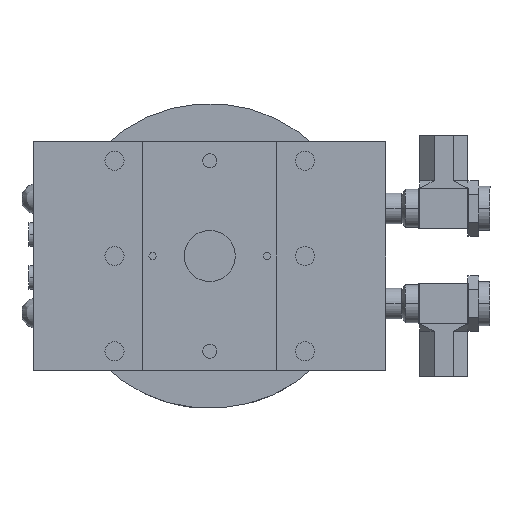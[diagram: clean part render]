
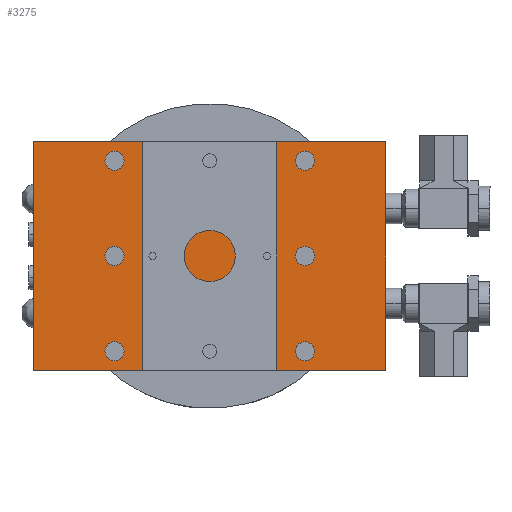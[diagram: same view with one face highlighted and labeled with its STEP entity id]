
A CAD part, front view. The second image highlights one B-rep face of the part: STEP entity #3275.
In plain terms, the highlighted planar face has unit normal (0, -1, 0) as drawn and (0, 0, -1) by its records, which use the part's own axes.
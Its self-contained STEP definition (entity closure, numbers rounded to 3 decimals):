
#121 = DIRECTION ( 'NONE',  ( 0., 0., -1. ) ) ;
#455 = DIRECTION ( 'NONE',  ( 1., 0., 0. ) ) ;
#465 = DIRECTION ( 'NONE',  ( 1., 0., 0. ) ) ;
#509 = LINE ( 'NONE', #2120, #4848 ) ;
#512 = EDGE_CURVE ( 'NONE', #8789, #6816, #3556, .T. ) ;
#568 = CARTESIAN_POINT ( 'NONE',  ( -31.75, -31.75, -16.002 ) ) ;
#657 = EDGE_CURVE ( 'NONE', #6209, #7757, #9333, .T. ) ;
#679 = DIRECTION ( 'NONE',  ( 1., 0., 0. ) ) ;
#703 = VERTEX_POINT ( 'NONE', #3825 ) ;
#765 = EDGE_CURVE ( 'NONE', #7081, #703, #1392, .T. ) ;
#803 = EDGE_CURVE ( 'NONE', #10704, #10449, #8000, .T. ) ;
#901 = ORIENTED_EDGE ( 'NONE', *, *, #1232, .F. ) ;
#1213 = CARTESIAN_POINT ( 'NONE',  ( 34.925, 31.75, -16.002 ) ) ;
#1232 = EDGE_CURVE ( 'NONE', #7757, #6209, #11074, .T. ) ;
#1366 = CARTESIAN_POINT ( 'NONE',  ( -34.925, 31.75, -16.002 ) ) ;
#1392 = CIRCLE ( 'NONE', #11182, 3.175 ) ;
#1425 = CIRCLE ( 'NONE', #3048, 3.175 ) ;
#1456 = DIRECTION ( 'NONE',  ( 1., 0., 0. ) ) ;
#1458 = CARTESIAN_POINT ( 'NONE',  ( 58.737, 0., -16.002 ) ) ;
#1498 = CARTESIAN_POINT ( 'NONE',  ( 28.562, 0., -16.002 ) ) ;
#1524 = ORIENTED_EDGE ( 'NONE', *, *, #657, .F. ) ;
#1526 = DIRECTION ( 'NONE',  ( 0., 0., -1. ) ) ;
#1552 = AXIS2_PLACEMENT_3D ( 'NONE', #10782, #5637, #465 ) ;
#1594 = EDGE_LOOP ( 'NONE', ( #901, #1524 ) ) ;
#1779 = EDGE_CURVE ( 'NONE', #5738, #9638, #2442, .T. ) ;
#1907 = CARTESIAN_POINT ( 'NONE',  ( -34.925, -31.75, -16.002 ) ) ;
#1968 = AXIS2_PLACEMENT_3D ( 'NONE', #9615, #4474, #10483 ) ;
#2120 = CARTESIAN_POINT ( 'NONE',  ( 0., 38.1, -16.002 ) ) ;
#2184 = FACE_BOUND ( 'NONE', #2218, .T. ) ;
#2218 = EDGE_LOOP ( 'NONE', ( #4776, #10630 ) ) ;
#2324 = VERTEX_POINT ( 'NONE', #3490 ) ;
#2394 = EDGE_LOOP ( 'NONE', ( #7592, #8938 ) ) ;
#2442 = CIRCLE ( 'NONE', #2609, 3.175 ) ;
#2455 = AXIS2_PLACEMENT_3D ( 'NONE', #2556, #8564, #3419 ) ;
#2556 = CARTESIAN_POINT ( 'NONE',  ( 31.75, 31.75, -16.002 ) ) ;
#2609 = AXIS2_PLACEMENT_3D ( 'NONE', #568, #6605, #1456 ) ;
#2678 = LINE ( 'NONE', #9310, #9539 ) ;
#2702 = CARTESIAN_POINT ( 'NONE',  ( -58.737, 38.1, -16.002 ) ) ;
#2747 = CARTESIAN_POINT ( 'NONE',  ( -58.737, 0., -16.002 ) ) ;
#2776 = EDGE_LOOP ( 'NONE', ( #7596, #5868 ) ) ;
#2975 = DIRECTION ( 'NONE',  ( 1., 0., 0. ) ) ;
#3048 = AXIS2_PLACEMENT_3D ( 'NONE', #5304, #121, #6166 ) ;
#3183 = DIRECTION ( 'NONE',  ( 0., 0., -1. ) ) ;
#3275 = ADVANCED_FACE ( 'NONE', ( #9043, #6764, #5027, #4488, #2184, #11068, #8769 ), #10995, .F. ) ;
#3280 = DIRECTION ( 'NONE',  ( 0., 0., 1. ) ) ;
#3406 = CARTESIAN_POINT ( 'NONE',  ( 58.737, -38.1, -16.002 ) ) ;
#3419 = DIRECTION ( 'NONE',  ( 1., 0., 0. ) ) ;
#3454 = CARTESIAN_POINT ( 'NONE',  ( -28.575, -31.75, -16.002 ) ) ;
#3473 = AXIS2_PLACEMENT_3D ( 'NONE', #10858, #5691, #679 ) ;
#3474 = AXIS2_PLACEMENT_3D ( 'NONE', #8323, #3183, #9169 ) ;
#3490 = CARTESIAN_POINT ( 'NONE',  ( -28.562, 0., -16.002 ) ) ;
#3548 = AXIS2_PLACEMENT_3D ( 'NONE', #9777, #4618, #10635 ) ;
#3556 = CIRCLE ( 'NONE', #1968, 3.175 ) ;
#3560 = ORIENTED_EDGE ( 'NONE', *, *, #803, .F. ) ;
#3629 = EDGE_CURVE ( 'NONE', #7650, #6711, #10274, .T. ) ;
#3659 = EDGE_CURVE ( 'NONE', #703, #7081, #5818, .T. ) ;
#3755 = CARTESIAN_POINT ( 'NONE',  ( 31.75, 31.75, -16.002 ) ) ;
#3777 = CARTESIAN_POINT ( 'NONE',  ( 34.938, 0., -16.002 ) ) ;
#3825 = CARTESIAN_POINT ( 'NONE',  ( -28.575, 31.75, -16.002 ) ) ;
#3861 = AXIS2_PLACEMENT_3D ( 'NONE', #6703, #3280, #9283 ) ;
#3897 = LINE ( 'NONE', #2747, #10758 ) ;
#3928 = CARTESIAN_POINT ( 'NONE',  ( -58.737, -38.1, -16.002 ) ) ;
#4060 = DIRECTION ( 'NONE',  ( 0., -1., 0. ) ) ;
#4474 = DIRECTION ( 'NONE',  ( 0., 0., -1. ) ) ;
#4488 = FACE_BOUND ( 'NONE', #1594, .T. ) ;
#4617 = DIRECTION ( 'NONE',  ( 1., 0., 0. ) ) ;
#4618 = DIRECTION ( 'NONE',  ( 0., 0., -1. ) ) ;
#4776 = ORIENTED_EDGE ( 'NONE', *, *, #7249, .F. ) ;
#4779 = ORIENTED_EDGE ( 'NONE', *, *, #8505, .T. ) ;
#4848 = VECTOR ( 'NONE', #2975, 1000. ) ;
#4854 = DIRECTION ( 'NONE',  ( 0., 0., -1. ) ) ;
#5027 = FACE_BOUND ( 'NONE', #6854, .T. ) ;
#5274 = ORIENTED_EDGE ( 'NONE', *, *, #9451, .F. ) ;
#5304 = CARTESIAN_POINT ( 'NONE',  ( -31.75, -31.75, -16.002 ) ) ;
#5414 = AXIS2_PLACEMENT_3D ( 'NONE', #3755, #9773, #4617 ) ;
#5444 = ORIENTED_EDGE ( 'NONE', *, *, #11024, .F. ) ;
#5572 = EDGE_CURVE ( 'NONE', #6116, #2324, #7375, .T. ) ;
#5610 = ORIENTED_EDGE ( 'NONE', *, *, #1779, .F. ) ;
#5628 = DIRECTION ( 'NONE',  ( 0., 0., -1. ) ) ;
#5637 = DIRECTION ( 'NONE',  ( 0., 0., -1. ) ) ;
#5691 = DIRECTION ( 'NONE',  ( 0., 0., -1. ) ) ;
#5738 = VERTEX_POINT ( 'NONE', #1907 ) ;
#5818 = CIRCLE ( 'NONE', #10557, 3.175 ) ;
#5868 = ORIENTED_EDGE ( 'NONE', *, *, #765, .F. ) ;
#5955 = CARTESIAN_POINT ( 'NONE',  ( 28.575, 31.75, -16.002 ) ) ;
#6116 = VERTEX_POINT ( 'NONE', #8442 ) ;
#6131 = EDGE_LOOP ( 'NONE', ( #8600, #4779, #7612, #9469 ) ) ;
#6166 = DIRECTION ( 'NONE',  ( 1., 0., 0. ) ) ;
#6209 = VERTEX_POINT ( 'NONE', #5955 ) ;
#6268 = CIRCLE ( 'NONE', #3548, 3.188 ) ;
#6582 = CARTESIAN_POINT ( 'NONE',  ( 28.575, -31.75, -16.002 ) ) ;
#6605 = DIRECTION ( 'NONE',  ( 0., 0., -1. ) ) ;
#6692 = CARTESIAN_POINT ( 'NONE',  ( -31.75, 31.75, -16.002 ) ) ;
#6703 = CARTESIAN_POINT ( 'NONE',  ( 0., 0., -16.002 ) ) ;
#6711 = VERTEX_POINT ( 'NONE', #3406 ) ;
#6764 = FACE_BOUND ( 'NONE', #10128, .T. ) ;
#6816 = VERTEX_POINT ( 'NONE', #10451 ) ;
#6854 = EDGE_LOOP ( 'NONE', ( #5274, #3560 ) ) ;
#6910 = EDGE_CURVE ( 'NONE', #2324, #6116, #6268, .T. ) ;
#7081 = VERTEX_POINT ( 'NONE', #1366 ) ;
#7249 = EDGE_CURVE ( 'NONE', #6816, #8789, #10699, .T. ) ;
#7375 = CIRCLE ( 'NONE', #3474, 3.188 ) ;
#7546 = DIRECTION ( 'NONE',  ( 1., 0., 0. ) ) ;
#7592 = ORIENTED_EDGE ( 'NONE', *, *, #6910, .F. ) ;
#7596 = ORIENTED_EDGE ( 'NONE', *, *, #3659, .F. ) ;
#7612 = ORIENTED_EDGE ( 'NONE', *, *, #8653, .T. ) ;
#7650 = VERTEX_POINT ( 'NONE', #10505 ) ;
#7757 = VERTEX_POINT ( 'NONE', #1213 ) ;
#7994 = VECTOR ( 'NONE', #4060, 1000. ) ;
#8000 = CIRCLE ( 'NONE', #3473, 3.188 ) ;
#8065 = CIRCLE ( 'NONE', #1552, 3.188 ) ;
#8082 = VERTEX_POINT ( 'NONE', #3928 ) ;
#8323 = CARTESIAN_POINT ( 'NONE',  ( -31.75, 0., -16.002 ) ) ;
#8442 = CARTESIAN_POINT ( 'NONE',  ( -34.938, 0., -16.002 ) ) ;
#8505 = EDGE_CURVE ( 'NONE', #8082, #11016, #3897, .T. ) ;
#8564 = DIRECTION ( 'NONE',  ( 0., 0., -1. ) ) ;
#8600 = ORIENTED_EDGE ( 'NONE', *, *, #8943, .T. ) ;
#8653 = EDGE_CURVE ( 'NONE', #11016, #7650, #509, .T. ) ;
#8753 = DIRECTION ( 'NONE',  ( 0., 1., 0. ) ) ;
#8769 = FACE_OUTER_BOUND ( 'NONE', #6131, .T. ) ;
#8789 = VERTEX_POINT ( 'NONE', #6582 ) ;
#8938 = ORIENTED_EDGE ( 'NONE', *, *, #5572, .F. ) ;
#8943 = EDGE_CURVE ( 'NONE', #6711, #8082, #2678, .T. ) ;
#9043 = FACE_BOUND ( 'NONE', #2776, .T. ) ;
#9169 = DIRECTION ( 'NONE',  ( 1., 0., 0. ) ) ;
#9240 = AXIS2_PLACEMENT_3D ( 'NONE', #9978, #4854, #10864 ) ;
#9283 = DIRECTION ( 'NONE',  ( 1., 0., 0. ) ) ;
#9310 = CARTESIAN_POINT ( 'NONE',  ( 0., -38.1, -16.002 ) ) ;
#9333 = CIRCLE ( 'NONE', #5414, 3.175 ) ;
#9451 = EDGE_CURVE ( 'NONE', #10449, #10704, #8065, .T. ) ;
#9469 = ORIENTED_EDGE ( 'NONE', *, *, #3629, .T. ) ;
#9539 = VECTOR ( 'NONE', #10196, 1000. ) ;
#9615 = CARTESIAN_POINT ( 'NONE',  ( 31.75, -31.75, -16.002 ) ) ;
#9638 = VERTEX_POINT ( 'NONE', #3454 ) ;
#9773 = DIRECTION ( 'NONE',  ( 0., 0., -1. ) ) ;
#9777 = CARTESIAN_POINT ( 'NONE',  ( -31.75, 0., -16.002 ) ) ;
#9978 = CARTESIAN_POINT ( 'NONE',  ( 31.75, -31.75, -16.002 ) ) ;
#10128 = EDGE_LOOP ( 'NONE', ( #5444, #5610 ) ) ;
#10196 = DIRECTION ( 'NONE',  ( -1., 0., 0. ) ) ;
#10274 = LINE ( 'NONE', #1458, #7994 ) ;
#10449 = VERTEX_POINT ( 'NONE', #3777 ) ;
#10451 = CARTESIAN_POINT ( 'NONE',  ( 34.925, -31.75, -16.002 ) ) ;
#10483 = DIRECTION ( 'NONE',  ( 1., 0., 0. ) ) ;
#10505 = CARTESIAN_POINT ( 'NONE',  ( 58.737, 38.1, -16.002 ) ) ;
#10557 = AXIS2_PLACEMENT_3D ( 'NONE', #6692, #1526, #7546 ) ;
#10630 = ORIENTED_EDGE ( 'NONE', *, *, #512, .F. ) ;
#10635 = DIRECTION ( 'NONE',  ( 1., 0., 0. ) ) ;
#10699 = CIRCLE ( 'NONE', #9240, 3.175 ) ;
#10704 = VERTEX_POINT ( 'NONE', #1498 ) ;
#10758 = VECTOR ( 'NONE', #8753, 1000. ) ;
#10776 = CARTESIAN_POINT ( 'NONE',  ( -31.75, 31.75, -16.002 ) ) ;
#10782 = CARTESIAN_POINT ( 'NONE',  ( 31.75, 0., -16.002 ) ) ;
#10858 = CARTESIAN_POINT ( 'NONE',  ( 31.75, 0., -16.002 ) ) ;
#10864 = DIRECTION ( 'NONE',  ( 1., 0., 0. ) ) ;
#10995 = PLANE ( 'NONE',  #3861 ) ;
#11016 = VERTEX_POINT ( 'NONE', #2702 ) ;
#11024 = EDGE_CURVE ( 'NONE', #9638, #5738, #1425, .T. ) ;
#11068 = FACE_BOUND ( 'NONE', #2394, .T. ) ;
#11074 = CIRCLE ( 'NONE', #2455, 3.175 ) ;
#11182 = AXIS2_PLACEMENT_3D ( 'NONE', #10776, #5628, #455 ) ;
